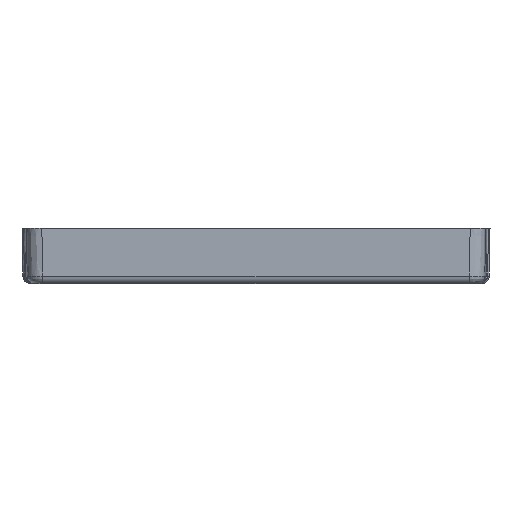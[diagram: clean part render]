
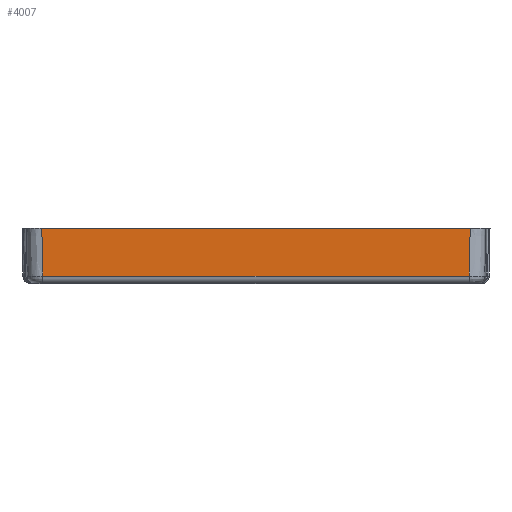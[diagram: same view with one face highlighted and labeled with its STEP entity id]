
A CAD part, front view. The second image highlights one B-rep face of the part: STEP entity #4007.
In plain terms, the highlighted planar face has unit normal (0, -1, -0.018).
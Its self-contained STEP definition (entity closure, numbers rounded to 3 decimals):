
#561 = FACE_OUTER_BOUND ( 'NONE', #3876, .T. ) ;
#592 = AXIS2_PLACEMENT_3D ( 'NONE', #6959, #13626, #15656 ) ;
#2283 = VERTEX_POINT ( 'NONE', #4325 ) ;
#3353 = DIRECTION ( 'NONE',  ( 1., 0., 0. ) ) ;
#3876 = EDGE_LOOP ( 'NONE', ( #4912, #8584, #25763, #14724 ) ) ;
#4007 = ADVANCED_FACE ( 'NONE', ( #561 ), #20756, .T. ) ;
#4325 = CARTESIAN_POINT ( 'NONE',  ( 27.577, -34.848, 0.983 ) ) ;
#4912 = ORIENTED_EDGE ( 'NONE', *, *, #12813, .T. ) ;
#6352 = CARTESIAN_POINT ( 'NONE',  ( -27.683, -34.955, 7.15 ) ) ;
#6457 = CARTESIAN_POINT ( 'NONE',  ( -27.663, -34.935, 5.97 ) ) ;
#6959 = CARTESIAN_POINT ( 'NONE',  ( -29.644, -34.955, 7.15 ) ) ;
#7234 = CARTESIAN_POINT ( 'NONE',  ( -27.592, -34.863, 1.858 ) ) ;
#7269 = CARTESIAN_POINT ( 'NONE',  ( -27.577, -34.848, 0.983 ) ) ;
#8584 = ORIENTED_EDGE ( 'NONE', *, *, #14213, .T. ) ;
#8913 = VERTEX_POINT ( 'NONE', #16616 ) ;
#9282 = CARTESIAN_POINT ( 'NONE',  ( -27.642, -34.914, 4.789 ) ) ;
#9298 = CARTESIAN_POINT ( 'NONE',  ( -27.622, -34.894, 3.609 ) ) ;
#9473 = CARTESIAN_POINT ( 'NONE',  ( -27.607, -34.878, 2.733 ) ) ;
#10742 = EDGE_CURVE ( 'NONE', #20215, #8913, #24022, .T. ) ;
#11149 = CARTESIAN_POINT ( 'NONE',  ( -27.683, -34.955, 7.15 ) ) ;
#12813 = EDGE_CURVE ( 'NONE', #20215, #17330, #25857, .T. ) ;
#13626 = DIRECTION ( 'NONE',  ( 0., -1., -0.017 ) ) ;
#14213 = EDGE_CURVE ( 'NONE', #17330, #2283, #19967, .T. ) ;
#14724 = ORIENTED_EDGE ( 'NONE', *, *, #10742, .F. ) ;
#15337 = EDGE_CURVE ( 'NONE', #2283, #8913, #21242, .T. ) ;
#15656 = DIRECTION ( 'NONE',  ( 0., 0.017, -1. ) ) ;
#16322 = VECTOR ( 'NONE', #3353, 1000. ) ;
#16421 = CARTESIAN_POINT ( 'NONE',  ( -29.644, -34.848, 0.983 ) ) ;
#16481 = DIRECTION ( 'NONE',  ( 1., 0., 0. ) ) ;
#16616 = CARTESIAN_POINT ( 'NONE',  ( 27.683, -34.955, 7.15 ) ) ;
#16743 = CARTESIAN_POINT ( 'NONE',  ( 27.683, -34.955, 7.15 ) ) ;
#16768 = CARTESIAN_POINT ( 'NONE',  ( 27.663, -34.935, 5.97 ) ) ;
#16778 = CARTESIAN_POINT ( 'NONE',  ( 27.642, -34.914, 4.789 ) ) ;
#16797 = CARTESIAN_POINT ( 'NONE',  ( 27.622, -34.894, 3.609 ) ) ;
#16803 = CARTESIAN_POINT ( 'NONE',  ( 27.607, -34.878, 2.733 ) ) ;
#16869 = CARTESIAN_POINT ( 'NONE',  ( 27.577, -34.848, 0.983 ) ) ;
#17250 = CARTESIAN_POINT ( 'NONE',  ( 27.592, -34.863, 1.858 ) ) ;
#17330 = VERTEX_POINT ( 'NONE', #21101 ) ;
#17453 = CARTESIAN_POINT ( 'NONE',  ( -29.644, -34.955, 7.15 ) ) ;
#19967 = LINE ( 'NONE', #16421, #22920 ) ;
#20215 = VERTEX_POINT ( 'NONE', #11149 ) ;
#20756 = PLANE ( 'NONE',  #592 ) ;
#21101 = CARTESIAN_POINT ( 'NONE',  ( -27.577, -34.848, 0.983 ) ) ;
#21242 = B_SPLINE_CURVE_WITH_KNOTS ( 'NONE', 3,
 ( #16869, #17250, #16803, #16797, #16778, #16768, #16743 ),
 .UNSPECIFIED., .F., .F.,
 ( 4, 3, 4 ),
 ( 0.001, 0.004, 0.007 ),
 .UNSPECIFIED. ) ;
#22920 = VECTOR ( 'NONE', #16481, 1000. ) ;
#24022 = LINE ( 'NONE', #17453, #16322 ) ;
#25763 = ORIENTED_EDGE ( 'NONE', *, *, #15337, .T. ) ;
#25857 = B_SPLINE_CURVE_WITH_KNOTS ( 'NONE', 3,
 ( #6352, #6457, #9282, #9298, #9473, #7234, #7269 ),
 .UNSPECIFIED., .F., .F.,
 ( 4, 3, 4 ),
 ( 0., 0.004, 0.006 ),
 .UNSPECIFIED. ) ;
